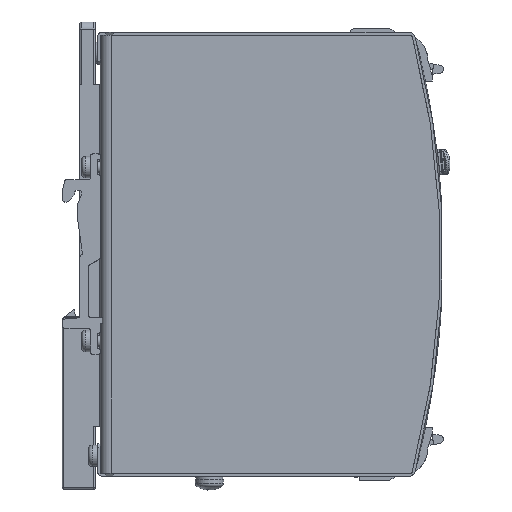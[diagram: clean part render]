
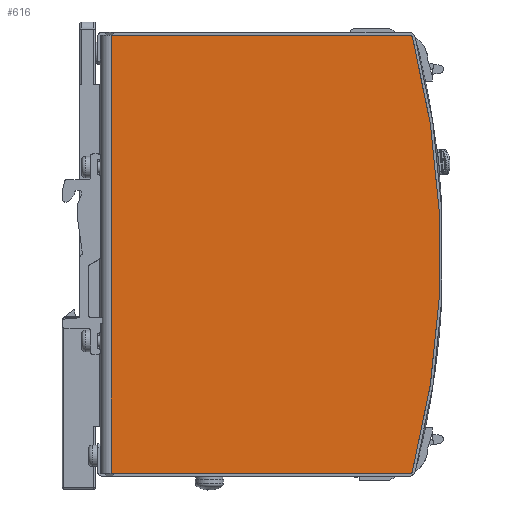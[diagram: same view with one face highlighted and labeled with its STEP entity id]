
A CAD part, front view. The second image highlights one B-rep face of the part: STEP entity #616.
In plain terms, the highlighted planar face has unit normal (0, -1, 0).
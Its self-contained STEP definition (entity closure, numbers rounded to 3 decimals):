
#228=CARTESIAN_POINT('',(87.177,-16.,-60.777));
#229=VERTEX_POINT('',#228);
#230=CARTESIAN_POINT('',(86.693,-16.,-61.15));
#231=VERTEX_POINT('',#230);
#232=CARTESIAN_POINT('',(86.693,-16.,-60.65));
#233=DIRECTION('',(0.0,1.,0.0));
#234=DIRECTION('',(0.611,0.0,-0.792));
#235=AXIS2_PLACEMENT_3D('',#232,#233,#234);
#236=CIRCLE('',#235,0.5);
#237=EDGE_CURVE('',#229,#231,#236,.T.);
#280=CARTESIAN_POINT('',(87.177,-16.,60.777));
#281=VERTEX_POINT('',#280);
#288=CARTESIAN_POINT('',(-145.0,-16.,0.));
#289=DIRECTION('',(0.0,-1.0,0.0));
#290=DIRECTION('',(-0.967,0.0,-0.255));
#291=AXIS2_PLACEMENT_3D('',#288,#289,#290);
#292=CIRCLE('',#291,240.);
#293=EDGE_CURVE('',#229,#281,#292,.T.);
#369=CARTESIAN_POINT('',(86.693,-16.,61.15));
#370=VERTEX_POINT('',#369);
#371=CARTESIAN_POINT('',(86.693,-16.,60.65));
#372=DIRECTION('',(0.0,1.,0.0));
#373=DIRECTION('',(0.611,0.0,0.792));
#374=AXIS2_PLACEMENT_3D('',#371,#372,#373);
#375=CIRCLE('',#374,0.5);
#376=EDGE_CURVE('',#370,#281,#375,.T.);
#428=CARTESIAN_POINT('',(3.,-16.0,-61.15));
#429=VERTEX_POINT('',#428);
#430=CARTESIAN_POINT('',(86.693,-16.,-61.15));
#431=DIRECTION('',(-1.0,0.0,0.0));
#432=VECTOR('',#431,83.693);
#433=LINE('',#430,#432);
#434=EDGE_CURVE('',#231,#429,#433,.T.);
#571=CARTESIAN_POINT('',(3.,-16.0,61.15));
#572=VERTEX_POINT('',#571);
#573=CARTESIAN_POINT('',(3.,-16.,61.15));
#574=DIRECTION('',(0.0,0.0,-1.0));
#575=VECTOR('',#574,122.3);
#576=LINE('',#573,#575);
#577=EDGE_CURVE('',#572,#429,#576,.T.);
#598=CARTESIAN_POINT('',(130.,-16.,-61.15));
#599=DIRECTION('',(0.0,-1.0,0.0));
#600=DIRECTION('',(0.0,0.0,-1.0));
#601=AXIS2_PLACEMENT_3D('',#598,#599,#600);
#602=PLANE('',#601);
#603=ORIENTED_EDGE('',*,*,#237,.F.);
#604=ORIENTED_EDGE('',*,*,#293,.T.);
#605=ORIENTED_EDGE('',*,*,#376,.F.);
#606=CARTESIAN_POINT('',(86.693,-16.,61.15));
#607=DIRECTION('',(-1.0,0.0,0.0));
#608=VECTOR('',#607,83.693);
#609=LINE('',#606,#608);
#610=EDGE_CURVE('',#370,#572,#609,.T.);
#611=ORIENTED_EDGE('',*,*,#610,.T.);
#612=ORIENTED_EDGE('',*,*,#577,.T.);
#613=ORIENTED_EDGE('',*,*,#434,.F.);
#614=EDGE_LOOP('',(#603,#604,#605,#611,#612,#613));
#615=FACE_OUTER_BOUND('',#614,.T.);
#616=ADVANCED_FACE('',(#615),#602,.T.);
